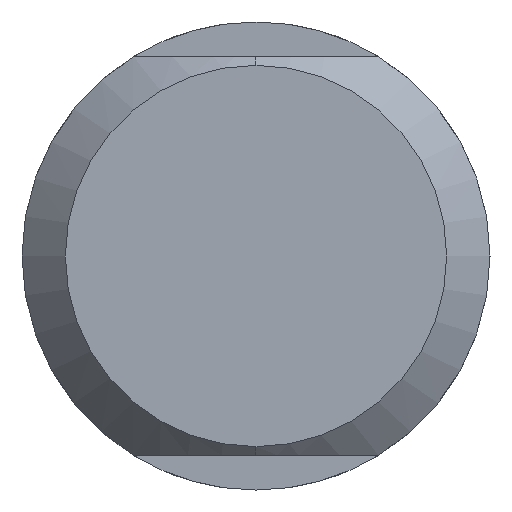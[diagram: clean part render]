
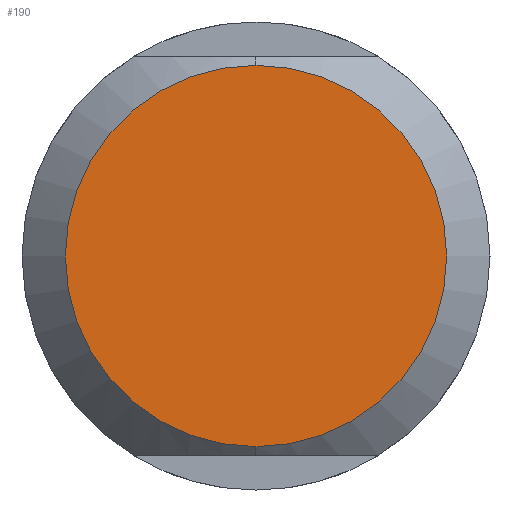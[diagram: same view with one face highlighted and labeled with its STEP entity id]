
A CAD part, left-side view. The second image highlights one B-rep face of the part: STEP entity #190.
In plain terms, the highlighted planar face has unit normal (-1, 0, 0).
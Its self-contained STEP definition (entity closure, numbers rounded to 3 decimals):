
#14 = VERTEX_POINT ( 'NONE', #68 ) ;
#68 = CARTESIAN_POINT ( 'NONE',  ( 0., 0., 11. ) ) ;
#190 = ADVANCED_FACE ( 'NONE', ( #810 ), #324, .F. ) ;
#205 = CARTESIAN_POINT ( 'NONE',  ( 0., 0., 0. ) ) ;
#216 = DIRECTION ( 'NONE',  ( -1., 0., 0. ) ) ;
#219 = DIRECTION ( 'NONE',  ( 0., 0., -1. ) ) ;
#287 = EDGE_CURVE ( 'NONE', #14, #442, #477, .T. ) ;
#297 = AXIS2_PLACEMENT_3D ( 'NONE', #740, #738, #728 ) ;
#317 = CIRCLE ( 'NONE', #297, 11. ) ;
#323 = ORIENTED_EDGE ( 'NONE', *, *, #630, .T. ) ;
#324 = PLANE ( 'NONE',  #732 ) ;
#350 = CARTESIAN_POINT ( 'NONE',  ( 0., 0., 0. ) ) ;
#442 = VERTEX_POINT ( 'NONE', #519 ) ;
#450 = EDGE_LOOP ( 'NONE', ( #323, #797 ) ) ;
#477 = CIRCLE ( 'NONE', #570, 11. ) ;
#519 = CARTESIAN_POINT ( 'NONE',  ( 0., 0., -11. ) ) ;
#563 = DIRECTION ( 'NONE',  ( 0., 0., -1. ) ) ;
#570 = AXIS2_PLACEMENT_3D ( 'NONE', #205, #216, #219 ) ;
#590 = DIRECTION ( 'NONE',  ( 1., 0., 0. ) ) ;
#630 = EDGE_CURVE ( 'NONE', #442, #14, #317, .T. ) ;
#728 = DIRECTION ( 'NONE',  ( 0., 0., -1. ) ) ;
#732 = AXIS2_PLACEMENT_3D ( 'NONE', #350, #590, #563 ) ;
#738 = DIRECTION ( 'NONE',  ( -1., 0., 0. ) ) ;
#740 = CARTESIAN_POINT ( 'NONE',  ( 0., 0., 0. ) ) ;
#797 = ORIENTED_EDGE ( 'NONE', *, *, #287, .T. ) ;
#810 = FACE_OUTER_BOUND ( 'NONE', #450, .T. ) ;
